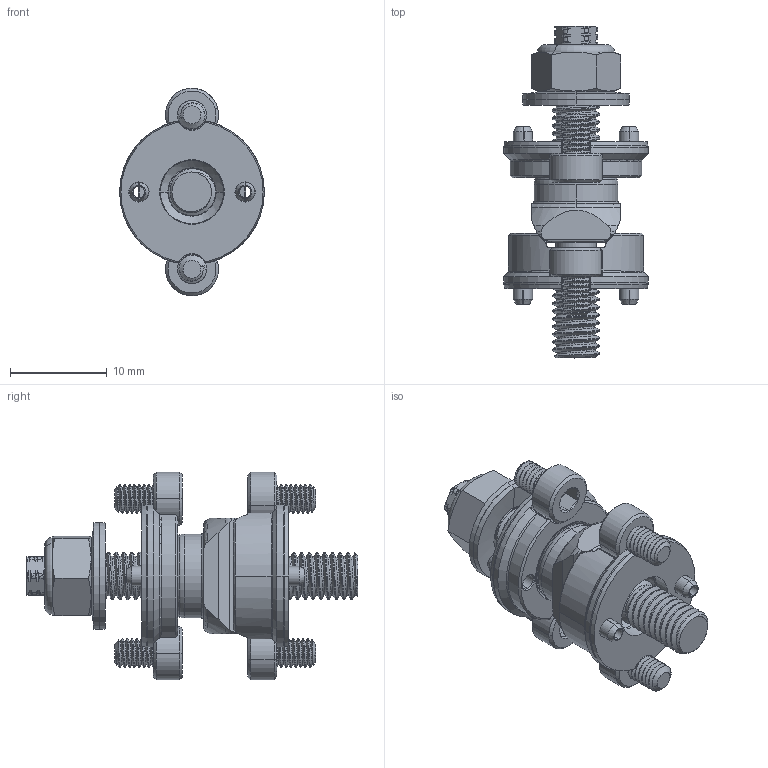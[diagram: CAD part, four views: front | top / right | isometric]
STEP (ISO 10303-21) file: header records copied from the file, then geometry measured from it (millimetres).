
FILE_DESCRIPTION (( 'STEP AP214' ), '1' );
FILE_NAME ('SPH10-STK-FR-T(N) Through Fixed Retainer Stack (noPlates).20260923.STEP', '2026-09-23T21:32:43', ( '' ), ( '' ), 'SwSTEP 2.0', 'SolidWorks 2024', '' );
FILE_SCHEMA (( 'AUTOMOTIVE_DESIGN' ));
Length unit declared in the file: millimetre
Products named in the file (14): SPH10h-PC Slotted Spring Pin MCM_91610A200 M2x4.0 18-8 STAINLESS STEEL SLOTTED SPRING PIN_Closed; SPH10-STK-FR-T(N) Through Fixed Retainer Stack (noPlates).20260923; SPH10a-NUT-FR-T; SPH10a-TOP_Through-noPlate; SPH10h-WRB Beleville Retainer Washer MCM_9713K15 .22x.437x.023x.034 Corrosion-Resistant Belleville Disc Spring_9713K15; SPH10c-BC Cone Block_Grinding; SPH10h-NR Retainer Nut MCM_90543A110 M5x0.8 Lock Nut 18-8 Stainless Steel Spring-Stop Locknut_90543A110; SPH10c-SP Spherolinder_Lapping; SPH10a-BTM-FR_Through-noPlate; SPH10h-RR Retainer Ring MCM_9433K234 .188x.127x.031 302 Stainless Steel Corrosion-Resistant Extension Spring with Loop Ends_Pried Open; SPH10g-GEOMETRY; SPH10c-BV Vee Block_grinding; SPH10h-SI Installation Screw MCM_91292A109 M3x4.0 18-8 Stainless Steel Socket Head Screw_91292A109; SPH10c-RF Fixed Retainer_-T Through
Assembly tree (19 placements, depth 3):
  SPH10-STK-FR-T(N) Through Fixed Retainer Stack (noPlates).20260923
    SPH10a-BTM-FR_Through-noPlate
      SPH10c-BV Vee Block_grinding
      SPH10c-SP Spherolinder_Lapping
      SPH10c-RF Fixed Retainer_-T Through
      SPH10h-RR Retainer Ring MCM_9433K234 .188x.127x.031 302 Stainless Steel Corrosion-Resistant Extension Spring with Loop Ends_Pried Open
      SPH10h-SI Installation Screw MCM_91292A109 M3x4.0 18-8 Stainless Steel Socket Head Screw_91292A109  x2
      SPH10h-PC Slotted Spring Pin MCM_91610A200 M2x4.0 18-8 STAINLESS STEEL SLOTTED SPRING PIN_Closed  x2
    SPH10a-TOP_Through-noPlate
      SPH10c-BC Cone Block_Grinding
      SPH10h-PC Slotted Spring Pin MCM_91610A200 M2x4.0 18-8 STAINLESS STEEL SLOTTED SPRING PIN_Closed  x2
      SPH10h-SI Installation Screw MCM_91292A109 M3x4.0 18-8 Stainless Steel Socket Head Screw_91292A109  x2
    SPH10a-NUT-FR-T
      SPH10h-WRB Beleville Retainer Washer MCM_9713K15 .22x.437x.023x.034 Corrosion-Resistant Belleville Disc Spring_9713K15  x2
      SPH10h-NR Retainer Nut MCM_90543A110 M5x0.8 Lock Nut 18-8 Stainless Steel Spring-Stop Locknut_90543A110
  SPH10g-GEOMETRY
Bounding box: 15 x 34.4 x 21.5 mm (x, y, z)
Volume: 2568.4 mm3; surface area: 3852.5 mm2
Topology: 16 solids, 16 shells, 837 faces, 2160 edges, 1364 vertices
Faces by surface type: cylinder 358, cone 187, bspline 129, plane 124, torus 35, sphere 4
Entity records: 62809 total; most frequent: CARTESIAN_POINT 49161, ORIENTED_EDGE 3202, DIRECTION 2340, EDGE_CURVE 1601, VERTEX_POINT 1014, AXIS2_PLACEMENT_3D 950, EDGE_LOOP 633, FACE_OUTER_BOUND 610
